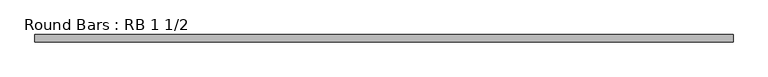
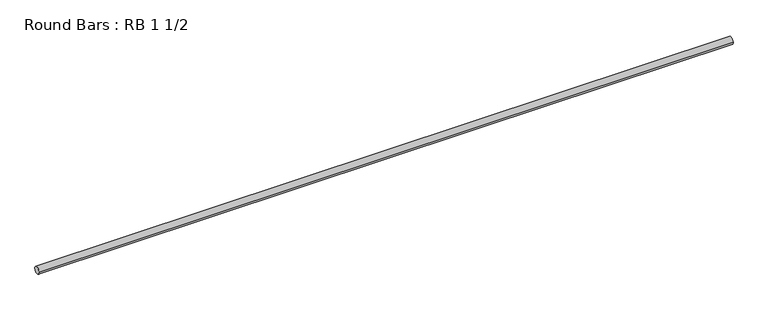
"""IFC4 building model written with IfcOpenShell, lengths in millimetres: member geometry, Round Bars : RB 1 1/2."""

from ifc_helpers import new_model, si_unit, point, frame, origin, origin_2d, place, context, project, spatial, circle_curve, trimmed, segment, composite_curve, outline, extrude, source, transform, mapped, element, save


def round_bars_rb_1_1_2_284c45c0(model_context):
    return source(origin(), model_context, "Body", "SweptSolid", [
        extrude(outline(composite_curve([segment(trimmed(circle_curve(origin_2d(), 19.05), [point((19.05, 0.0))], [point((-19.05, 0.0))], False, "CARTESIAN"), True, "CONTINUOUS"), segment(trimmed(circle_curve(origin_2d(), 19.05), [point((-19.05, 0.0))], [point((19.05, 0.0))], False, "CARTESIAN"), True, "CONTINUOUS")], self_intersect=False)), frame((-1916.096949, 0.0, 0.0), z_axis=(1.0, 0.0, 0.0), x_axis=(0.0, 1.0, 0.0)), (0.0, 0.0, 1.0), 3648.8734835),
    ])


if __name__ == "__main__":
    model = new_model("IFC4")
    model_context = context("Model", 3, world=origin())
    ifc_project = project(units=[si_unit("LENGTHUNIT", "METRE", prefix="MILLI")], contexts=[model_context])
    site = spatial("IfcSite", under=ifc_project)
    building = spatial("IfcBuilding", under=site)
    placement = place(None, origin())
    round_bars_rb_1_1_2_shape = round_bars_rb_1_1_2_284c45c0(model_context)
    element("IfcMember", 1, ObjectType="Round Bars : RB 1 1/2", at=placement, inside=building, context=model_context, shape_type="MappedRepresentation", body=[
        mapped(round_bars_rb_1_1_2_shape, transform((0.0, 0.0, 0.0), x_axis=(1.0, 0.0, 0.0), y_axis=(0.0, 1.0, 0.0), z_axis=(0.0, 0.0, 1.0))),
    ])
    save(model, "model.ifc")
